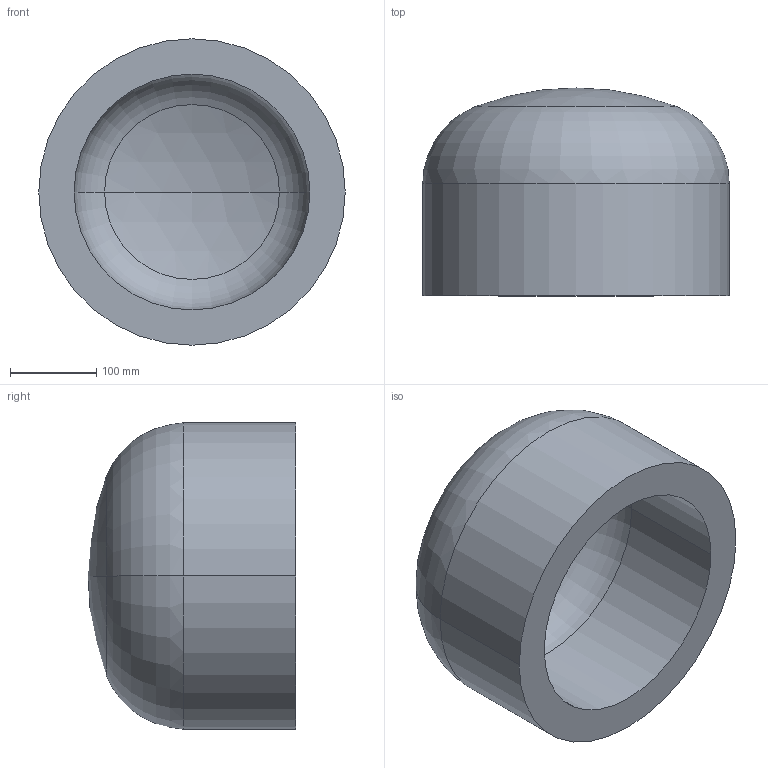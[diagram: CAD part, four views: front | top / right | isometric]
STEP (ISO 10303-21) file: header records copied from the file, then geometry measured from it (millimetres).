
FILE_DESCRIPTION (( 'STEP AP203' ), '1' );
FILE_NAME ('DIN 28013 Korbbogenform_-_Boden DIN 28013 - 355,6 x 130 - I - s=41.step', '2016-07-01T07:48:10', ( '' ), ( '' ), 'SwSTEP 2.0', 'SolidWorks 2013', '' );
FILE_SCHEMA (( 'CONFIG_CONTROL_DESIGN' ));
Length unit declared in the file: millimetre
Products named in the file (1): DIN 28013 Korbbogenform_-_Boden DIN 28013 - 355,6 x 130 - I - s=41
Bounding box: 355.6 x 241.11 x 355.6 mm (x, y, z)
Volume: 10169327.7 mm3; surface area: 540107.6 mm2
Topology: 1 solids, 1 shells, 13 faces, 24 edges, 14 vertices
Faces by surface type: torus 4, cylinder 4, sphere 4, plane 1
Entity records: 407 total; most frequent: DIRECTION 72, CARTESIAN_POINT 52, ORIENTED_EDGE 48, AXIS2_PLACEMENT_3D 34, EDGE_CURVE 24, CIRCLE 20, VERTEX_POINT 14, EDGE_LOOP 14
